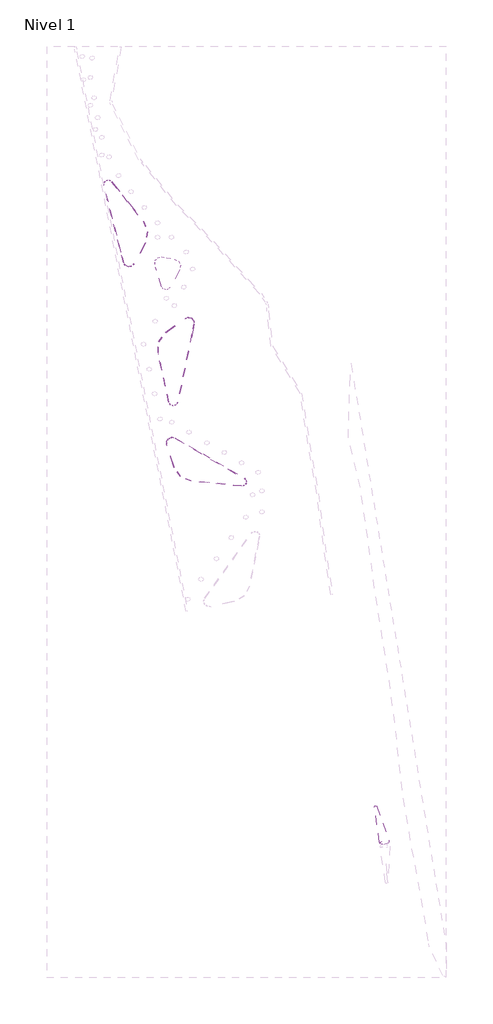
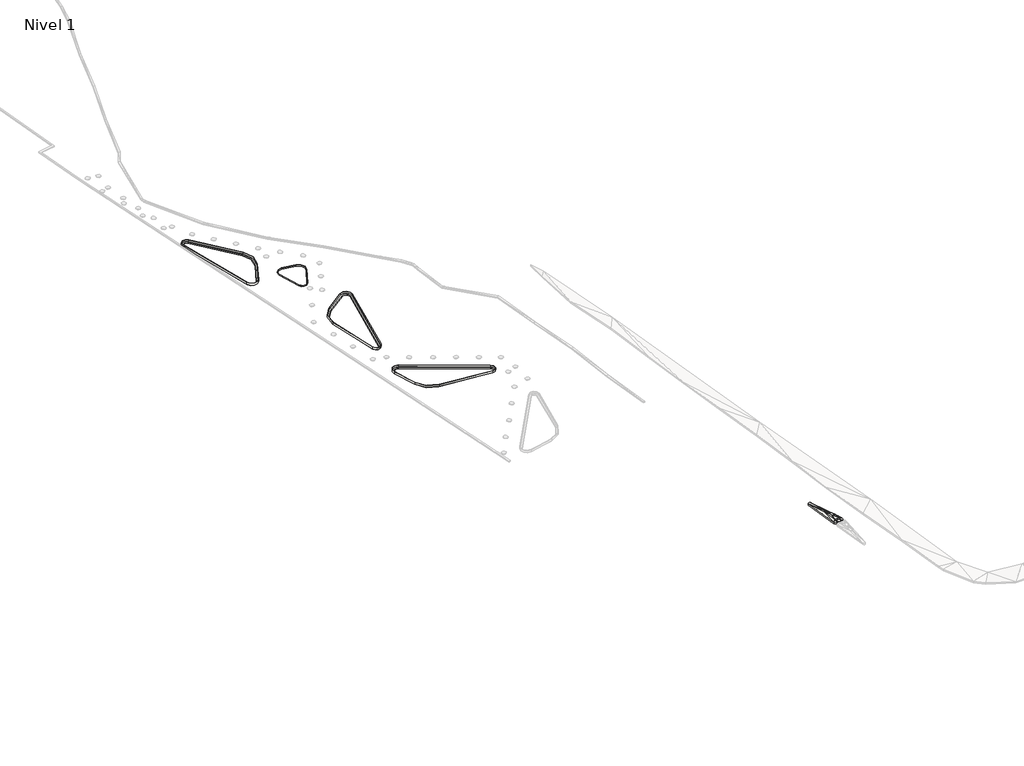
# One storey, part 23 of 45: 8 slabs.
"""IFC4 building model written with IfcOpenShell, lengths in millimetres."""

from ifc_helpers import new_model, si_unit, point, frame, frame_2d, origin, place, context, project, spatial, polyline, circle_curve, trimmed, segment, composite_curve, outline, extrude, element, save
from ifc_brep_helpers import plane_surface, cylinder_surface, revolved_surface, spline_surface, advanced_brep

model = new_model("IFC4")

# Units and contexts
model_context = context("Model", 3, world=origin())
ifc_project = project(units=[si_unit("LENGTHUNIT", "METRE", prefix="MILLI")], contexts=[model_context])

# Site, building, storey
site = spatial("IfcSite", under=ifc_project)
building = spatial("IfcBuilding", under=site)
storey = spatial("IfcBuildingStorey", under=building, Name="Nivel 1", Elevation=0.0)

# Slabs
placement = place(None, origin())
element("IfcSlab", 1, ObjectType="Lippia", at=placement, inside=storey, context=model_context, shape_type="AdvancedBrep", body=[
    advanced_brep(
    [(-297577.5649303, 65862.715958, 4450.0), (-297577.5649303, 65862.715958, 4750.0), (-298484.5435406, 65730.2969978, 4750.0), (-298484.5435406, 65730.2969978, 4450.0), (-297214.1380926, 66550.5736914, 4450.0), (-297214.1380926, 66550.5736914, 4750.0), (-299569.926828, 73163.0431529, 4450.0), (-299569.926828, 73163.0431529, 4750.0), (-299048.0510082, 66151.4063235, 4450.0), (-299048.0510082, 66151.4063235, 4750.0), (-300055.3646897, 73074.0532064, 4750.0), (-300055.3646897, 73074.0532064, 4450.0), (-298016.4116231, 67692.9453435, 5250.0), (-298385.4293453, 68139.7388524, 5250.0), (-298716.3371085, 68177.1692308, 5250.0), (-298798.4685339, 67850.792828, 5250.0), (-298664.4549729, 67611.1512435, 5250.0), (-298521.5610943, 67334.2951677, 5250.0), (-298080.4353767, 67319.4384019, 5250.0), (-297896.7080356, 66475.6975131, 5050.0), (-298342.3265072, 66237.6309907, 5050.0), (-298016.4116231, 67692.9453435, 4950.0), (-298080.4353767, 67319.4384019, 4950.0), (-298521.5610943, 67334.2951677, 4950.0), (-298664.4549729, 67611.1512435, 4950.0), (-298798.4685339, 67850.792828, 4950.0), (-298716.3371085, 68177.1692308, 4950.0), (-298385.4293453, 68139.7388524, 4950.0), (-297896.7080356, 66475.6975131, 4750.0), (-298342.3265072, 66237.6309907, 4750.0), (-298619.8066001, 69391.8526121, 5050.0), (-299098.3182106, 69261.7888346, 5050.0), (-298619.8066001, 69391.8526121, 4750.0), (-299098.3182106, 69261.7888346, 4750.0), (-298707.8018097, 66424.0660744, 5050.0), (-298553.5727109, 66225.5090471, 5050.0), (-298707.8018097, 66424.0660744, 4750.0), (-298553.5727109, 66225.5090471, 4750.0), (-297661.2618629, 66749.044911, 5050.0), (-297661.2618629, 66749.044911, 4750.0), (-297671.0518126, 67109.6802629, 5050.0), (-297671.0518126, 67109.6802629, 4750.0), (-298916.2203696, 69537.1326674, 5050.0), (-298916.2203696, 69537.1326674, 4750.0)],
    [
        (0, 1),
        (1, 2),
        (2, 3),
        (3, 0),
        (4, 5),
        (5, 1, circle_curve(frame((-297673.6199552, 66353.402653, 4750.0), z_axis=(0.0, 0.0, -1.0), x_axis=(0.3988669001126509, 0.9170088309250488, 0.0)), 500.0000005)),
        (0, 4, circle_curve(frame((-297673.6199552, 66353.402653, 4450.0), z_axis=(0.0, 0.0, 1.0), x_axis=(0.3988669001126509, 0.9170088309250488, 0.0)), 500.0000005)),
        (6, 7),
        (7, 5),
        (4, 6),
        (8, 9),
        (9, 10),
        (10, 11),
        (11, 8),
        (2, 9, circle_curve(frame((-298553.5727109, 66225.5090471, 4750.0), z_axis=(0.0, 0.0, -1.0), x_axis=(0.3988669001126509, 0.9170088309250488, 0.0)), 500.0000001)),
        (8, 3, circle_curve(frame((-298553.5727109, 66225.5090471, 4450.0), z_axis=(0.0, 0.0, 1.0), x_axis=(0.3988669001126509, 0.9170088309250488, 0.0)), 500.0000001)),
        (12, 13),
        (13, 14),
        (14, 15),
        (15, 16),
        (16, 17),
        (17, 18),
        (18, 12),
        (5, 19),
        (19, 1),
        (1, 20),
        (20, 2),
        (21, 22),
        (22, 23),
        (23, 24),
        (24, 25),
        (25, 26),
        (26, 27),
        (27, 21),
        (0, 28),
        (28, 4),
        (3, 29),
        (29, 0),
        (13, 30),
        (30, 14),
        (14, 31),
        (31, 15),
        (26, 32),
        (32, 27),
        (25, 33),
        (33, 26),
        (30, 31),
        (12, 30),
        (33, 32),
        (32, 21),
        (34, 9),
        (9, 35),
        (35, 34),
        (16, 34),
        (34, 17),
        (36, 37),
        (37, 8),
        (8, 36),
        (23, 36),
        (36, 24),
        (2, 35),
        (35, 20),
        (20, 19),
        (19, 34),
        (37, 3),
        (36, 28),
        (28, 29),
        (29, 37),
        (19, 17),
        (19, 18),
        (5, 38),
        (38, 19),
        (23, 28),
        (22, 28),
        (28, 39),
        (39, 4),
        (40, 18),
        (18, 38),
        (38, 40),
        (40, 5),
        (5, 30),
        (30, 40),
        (41, 39),
        (39, 22),
        (22, 41),
        (41, 32),
        (32, 4),
        (4, 41),
        (34, 15),
        (31, 34),
        (31, 9),
        (36, 33),
        (25, 36),
        (8, 33),
        (40, 12),
        (21, 41),
        (42, 31),
        (30, 42),
        (43, 32),
        (33, 43),
        (10, 7, circle_curve(frame((-299805.415819, 73079.1090442, 4750.0), z_axis=(0.0, 0.0, -1.0), x_axis=(0.3988669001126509, 0.9170088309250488, 0.0)), 249.999999)),
        (6, 11, circle_curve(frame((-299805.415819, 73079.1090442, 4450.0), z_axis=(0.0, 0.0, 1.0), x_axis=(0.3988669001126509, 0.9170088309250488, 0.0)), 249.999999)),
        (31, 10),
        (42, 10),
        (42, 7),
        (30, 7),
        (11, 33),
        (11, 43),
        (6, 43),
        (6, 32),
    ],
    [
        plane_surface(frame((-297577.5649303, 65862.715958, 4450.0), z_axis=(0.1444684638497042, -0.9895094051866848, 0.0), x_axis=(0.0, 0.0, 1.0))),
        cylinder_surface(frame((-297673.6199552, 66353.402653, 4750.0), z_axis=(0.0, 0.0, -1.0000000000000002), x_axis=(0.3988669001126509, 0.9170088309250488, 0.0)), 500.0000005),
        plane_surface(frame((-299569.926828, 73163.0431529, 4450.0), z_axis=(0.9420036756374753, 0.3356025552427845, 0.0), x_axis=(0.0, 0.0, 1.0))),
        plane_surface(frame((-299048.0510082, 66151.4063235, 4450.0), z_axis=(-0.989578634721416, -0.1439934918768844, 0.0), x_axis=(0.0, 0.0, 1.0))),
        cylinder_surface(frame((-298553.5727109, 66225.5090471, 4750.0), z_axis=(0.0, 0.0, -1.0000000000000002), x_axis=(0.3988669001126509, 0.9170088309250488, 0.0)), 500.0000001),
        plane_surface(frame((-298454.7282935, 67732.218724, 5250.0), z_axis=(0.0, 0.0, 1.0), x_axis=(-0.6368070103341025, 0.7710232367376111, 0.0))),
        spline_surface(2, 1, [[(-297577.5649303, 65862.715958, 4750.0), (-297896.7080356, 66475.6975131, 5050.0)], [(-297343.1276779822, 65908.60853332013, 4750.0), (-297896.7080356, 66475.6975131, 5050.0)], [(-297231.5313060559, 66119.82691205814, 4750.0), (-297896.7080356, 66475.6975131, 5050.0)], [(-297119.9349341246, 66331.04529078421, 4750.0), (-297896.7080356, 66475.6975131, 5050.0)], [(-297214.1380926, 66550.5736914, 4750.0), (-297896.7080356, 66475.6975131, 5050.0)]], [3, 2, 3], [2, 2], [0.0, 1.0, 2.0], [0.0, 1.0], weights=[[1.0, 1.0], [0.9023052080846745, 0.9023052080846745], [1.0, 1.0], [0.9023052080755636, 0.9023052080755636], [1.0, 1.0]]),
        plane_surface(frame((-298134.8116594, 65943.5479821, 4850.0), z_axis=(0.07640028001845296, -0.5232892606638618, 0.8487233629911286), x_axis=(0.9895094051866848, 0.1444684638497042, 0.0))),
        plane_surface(frame((-298454.7282935, 67732.218724, 4950.0), z_axis=(0.0, 0.0, -1.0), x_axis=(-0.6368070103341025, 0.7710232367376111, 0.0))),
        spline_surface(1, 2, [[(-297577.5649303, 65862.715958, 4450.0), (-297343.1276779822, 65908.60853332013, 4450.0), (-297231.5313060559, 66119.82691205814, 4450.0), (-297119.9349341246, 66331.04529078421, 4450.0), (-297214.1380926, 66550.5736914, 4450.0)], [(-297896.7080356, 66475.6975131, 4750.0), (-297896.7080356, 66475.6975131, 4750.0), (-297896.7080356, 66475.6975131, 4750.0), (-297896.7080356, 66475.6975131, 4750.0), (-297896.7080356, 66475.6975131, 4750.0)]], [2, 2], [3, 2, 3], [0.0, 1.0], [0.0, 1.0, 2.0], weights=[[1.0, 0.9023052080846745, 1.0, 0.9023052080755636, 1.0], [1.0, 0.9023052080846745, 1.0, 0.9023052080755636, 1.0]]),
        plane_surface(frame((-298134.8116594, 65943.5479821, 4550.0), z_axis=(-0.07640028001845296, 0.5232892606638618, -0.8487233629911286), x_axis=(0.9895094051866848, 0.1444684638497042, 0.0))),
        plane_surface(frame((-298573.8576846, 68569.5868984, 5183.3333333), z_axis=(0.01821456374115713, 0.1610280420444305, 0.9867817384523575), x_axis=(0.9936633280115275, -0.11239746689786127, 0.0))),
        plane_surface(frame((-298871.0412843, 68429.9169645, 5183.3333333), z_axis=(-0.29127934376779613, 0.073299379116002, 0.9538257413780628), x_axis=(0.2440379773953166, 0.9697656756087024, 0.0))),
        plane_surface(frame((-298573.8576846, 68569.5868984, 4883.3333333), z_axis=(-0.01821456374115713, -0.1610280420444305, -0.9867817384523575), x_axis=(0.9936633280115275, -0.11239746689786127, 0.0))),
        plane_surface(frame((-298871.0412843, 68429.9169645, 4883.3333333), z_axis=(0.29127934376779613, -0.073299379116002, -0.9538257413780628), x_axis=(0.2440379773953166, 0.9697656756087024, 0.0))),
        plane_surface(frame((-298811.4873064, 68943.6035591, 5116.6666667), z_axis=(-0.045061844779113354, 0.16578494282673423, 0.9851318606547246), x_axis=(0.3272683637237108, -0.9292650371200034, 0.1713531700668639))),
        plane_surface(frame((-298340.5491895, 68408.178936, 5183.3333333), z_axis=(0.23787202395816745, 0.19646434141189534, 0.9512195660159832), x_axis=(0.18176309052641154, -0.9710330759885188, 0.15510301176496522))),
        plane_surface(frame((-298811.4873064, 68943.6035591, 4816.6666667), z_axis=(0.045061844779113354, -0.16578494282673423, -0.9851318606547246), x_axis=(0.3272683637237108, -0.9292650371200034, 0.1713531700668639))),
        plane_surface(frame((-298340.5491895, 68408.178936, 4883.3333333), z_axis=(-0.23787202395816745, -0.19646434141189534, -0.9512195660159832), x_axis=(0.18176309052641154, -0.9710330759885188, 0.15510301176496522))),
        plane_surface(frame((-298769.8085096, 66266.993815, 4950.0), z_axis=(-0.44768836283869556, -0.3477417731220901, 0.8238026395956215), x_axis=(-0.6428809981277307, -0.515174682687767, -0.5668324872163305))),
        plane_surface(frame((-298631.2726256, 67123.1708286, 5183.3333333), z_axis=(-0.2883625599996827, -0.14883272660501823, 0.9458836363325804), x_axis=(-0.45864398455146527, 0.888620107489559, 0.0))),
        plane_surface(frame((-298769.8085096, 66266.993815, 4650.0), z_axis=(0.44768836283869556, 0.3477417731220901, -0.8238026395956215), x_axis=(-0.6428809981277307, -0.515174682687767, -0.5668324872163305))),
        plane_surface(frame((-298631.2726256, 67123.1708286, 4883.3333333), z_axis=(0.2883625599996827, 0.14883272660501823, -0.9458836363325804), x_axis=(-0.45864398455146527, 0.888620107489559, 0.0))),
        revolved_surface(polyline([(-298553.5727109, 66225.5090471, 5050.0), (-299048.0510082, 66151.4063235, 4750.0)]), (-298553.5727109, 66225.5090471, 5050.0), (0.0, 0.0, -1.0)),
        plane_surface(frame((-298375.1022658, 66340.7259063, 5050.0), z_axis=(0.0, 0.0, 1.0), x_axis=(0.9983576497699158, 0.057288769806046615, 0.0))),
        plane_surface(frame((-298460.1475862, 66064.4790118, 4950.0), z_axis=(0.029546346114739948, -0.5148970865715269, 0.8567426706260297), x_axis=(0.11838405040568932, -0.8492816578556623, -0.5144957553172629))),
        revolved_surface(polyline([(-298484.5435406, 65730.2969978, 4450.0), (-298553.5727109, 66225.5090471, 4750.0)]), (-298553.5727109, 66225.5090471, 4750.0), (0.0, 0.0, -1.0)),
        plane_surface(frame((-298375.1022658, 66340.7259063, 4750.0), z_axis=(0.0, 0.0, -1.0), x_axis=(0.9983576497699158, 0.057288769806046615, 0.0))),
        plane_surface(frame((-298460.1475862, 66064.4790118, 4650.0), z_axis=(-0.029546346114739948, 0.5148970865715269, -0.8567426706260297), x_axis=(0.11838405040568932, -0.8492816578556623, -0.5144957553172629))),
        plane_surface(frame((-298375.3569799, 66744.6862517, 5116.6666667), z_axis=(0.013831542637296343, -0.21728385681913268, 0.9760104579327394), x_axis=(-0.5782625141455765, 0.7945785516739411, 0.18508751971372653))),
        plane_surface(frame((-298166.2348355, 67043.1436942, 5183.3333333), z_axis=(-0.00782211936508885, -0.2322536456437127, 0.9726238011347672), x_axis=(-0.20728029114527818, 0.9519043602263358, 0.22563902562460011))),
        plane_surface(frame((-297590.7026637, 66591.7720385, 4950.0), z_axis=(0.4087064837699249, -0.35203692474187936, 0.8420386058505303), x_axis=(0.910896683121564, 0.09992303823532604, -0.4003531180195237))),
        plane_surface(frame((-297938.866491, 66192.0148206, 4950.0), z_axis=(0.1876443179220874, -0.3512370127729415, 0.9172906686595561), x_axis=(0.8469055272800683, -0.415185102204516, -0.33222335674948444))),
        plane_surface(frame((-298375.3569799, 66744.6862517, 4816.6666667), z_axis=(-0.013831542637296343, 0.21728385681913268, -0.9760104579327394), x_axis=(-0.5782625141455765, 0.7945785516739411, 0.18508751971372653))),
        plane_surface(frame((-298166.2348355, 67043.1436942, 4883.3333333), z_axis=(0.00782211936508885, 0.2322536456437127, -0.9726238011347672), x_axis=(-0.20728029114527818, 0.9519043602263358, 0.22563902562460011))),
        plane_surface(frame((-297590.7026637, 66591.7720385, 4650.0), z_axis=(-0.4087064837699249, 0.35203692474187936, -0.8420386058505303), x_axis=(0.910896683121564, 0.09992303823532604, -0.4003531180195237))),
        plane_surface(frame((-297938.866491, 66192.0148206, 4650.0), z_axis=(-0.1876443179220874, 0.3512370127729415, -0.9172906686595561), x_axis=(0.8469055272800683, -0.415185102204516, -0.33222335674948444))),
        plane_surface(frame((-297804.2496841, 67059.3878586, 5116.6666667), z_axis=(0.4439026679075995, 0.012050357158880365, 0.895993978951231), x_axis=(-0.8161703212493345, 0.418185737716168, 0.39873135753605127))),
        plane_surface(frame((-297834.9988351, 67684.0355221, 4950.0), z_axis=(0.7596873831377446, 0.3158206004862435, 0.5684473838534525), x_axis=(0.5843620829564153, -0.7150599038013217, -0.38367993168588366))),
        plane_surface(frame((-297804.2496841, 67059.3878586, 4816.6666667), z_axis=(-0.4439026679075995, -0.012050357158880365, -0.895993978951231), x_axis=(-0.8161703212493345, 0.418185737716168, 0.39873135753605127))),
        plane_surface(frame((-297834.9988351, 67684.0355221, 4650.0), z_axis=(-0.7596873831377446, -0.3158206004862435, -0.5684473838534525), x_axis=(0.5843620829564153, -0.7150599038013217, -0.38367993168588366))),
        plane_surface(frame((-297879.468425, 66848.0602753, 5116.6666667), z_axis=(0.21097705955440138, -0.18172384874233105, 0.9604504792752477), x_axis=(-0.5698664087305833, 0.7754499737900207, 0.2719000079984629))),
        plane_surface(frame((-297879.468425, 66848.0602753, 4816.6666667), z_axis=(-0.21097705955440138, 0.18172384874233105, -0.9604504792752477), x_axis=(-0.5698664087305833, 0.7754499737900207, 0.2719000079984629))),
        plane_surface(frame((-298868.1961847, 67845.5492457, 5116.6666667), z_axis=(-0.877695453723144, -0.12078504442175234, 0.4637474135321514), x_axis=(-0.06280917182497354, 0.9883617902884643, 0.13854955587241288))),
        plane_surface(frame((-298723.5751055, 67295.3367153, 5183.3333333), z_axis=(-0.2690366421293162, -0.15045201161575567, 0.951306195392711), x_axis=(0.035984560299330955, 0.9854637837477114, 0.16603084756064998))),
        plane_surface(frame((-298951.3903428, 67279.0870775, 4950.0), z_axis=(-0.6196234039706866, -0.08527016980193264, 0.7802536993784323), x_axis=(0.01608436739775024, -0.9952520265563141, -0.09599321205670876))),
        plane_surface(frame((-298868.1961847, 67845.5492457, 4816.6666667), z_axis=(0.877695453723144, 0.12078504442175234, -0.4637474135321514), x_axis=(-0.06280917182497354, 0.9883617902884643, 0.13854955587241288))),
        plane_surface(frame((-298723.5751055, 67295.3367153, 4883.3333333), z_axis=(0.2690366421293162, 0.15045201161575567, -0.951306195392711), x_axis=(0.035984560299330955, 0.9854637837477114, 0.16603084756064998))),
        plane_surface(frame((-298951.3903428, 67279.0870775, 4650.0), z_axis=(0.6196234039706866, 0.08527016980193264, -0.7802536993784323), x_axis=(0.01608436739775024, -0.9952520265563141, -0.09599321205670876))),
        plane_surface(frame((-297922.6329374, 67374.0213361, 5183.3333333), z_axis=(0.40867261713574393, -0.07005158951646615, 0.9099887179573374), x_axis=(-0.16894841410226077, -0.9856248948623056, 0.0))),
        plane_surface(frame((-298102.4233453, 68064.8260728, 5116.6666667), z_axis=(0.8340733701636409, 0.34674467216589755, 0.429056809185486), x_axis=(0.33264364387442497, -0.936585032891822, 0.11025734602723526))),
        plane_surface(frame((-297922.6329374, 67374.0213361, 4883.3333333), z_axis=(-0.40867261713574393, 0.07005158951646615, -0.9099887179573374), x_axis=(-0.16894841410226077, -0.9856248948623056, 0.0))),
        plane_surface(frame((-298102.4233453, 68064.8260728, 4816.6666667), z_axis=(-0.8340733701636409, -0.34674467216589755, -0.429056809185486), x_axis=(0.33264364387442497, -0.936585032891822, 0.11025734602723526))),
        plane_surface(frame((-298878.1150601, 69396.9247047, 5050.0), z_axis=(0.0, 0.0, 1.0), x_axis=(-0.5516246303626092, -0.8340924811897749, 0.0))),
        plane_surface(frame((-297515.4839227, 66803.0996218, 4950.0), z_axis=(0.5617573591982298, 0.015249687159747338, 0.8271614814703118), x_axis=(0.7791569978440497, -0.3458555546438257, -0.522779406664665))),
        plane_surface(frame((-298878.1150601, 69396.9247047, 4750.0), z_axis=(0.0, 0.0, -1.0), x_axis=(-0.5516246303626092, -0.8340924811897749, 0.0))),
        plane_surface(frame((-297515.4839227, 66803.0996218, 4650.0), z_axis=(-0.5617573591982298, -0.015249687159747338, -0.8271614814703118), x_axis=(0.7791569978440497, -0.3458555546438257, -0.522779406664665))),
        cylinder_surface(frame((-299805.415819, 73079.1090442, 4750.0), z_axis=(0.0, 0.0, -1.0000000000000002), x_axis=(0.3988669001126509, 0.9170088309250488, 0.0)), 249.999999),
        plane_surface(frame((-299400.5779695, 69495.7494548, 4850.0), z_axis=(-0.5955260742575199, -0.08665494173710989, 0.7986486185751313), x_axis=(0.1439934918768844, -0.989578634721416, 0.0))),
        plane_surface(frame((-299356.6344233, 70624.3249028, 4950.0), z_axis=(-0.08579216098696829, 0.05673839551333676, 0.9946961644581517), x_axis=(0.24278247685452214, -0.9670909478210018, 0.07610366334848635))),
        spline_surface(2, 1, [[(-299569.926828, 73163.0431529, 4750.0), (-298916.2203696, 69537.1326674, 5050.0)], [(-299641.3233970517, 73363.35630648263, 4750.0), (-298916.2203696, 69537.1326674, 5050.0)], [(-299850.49435796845, 73325.01131098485, 4750.0), (-298916.2203696, 69537.1326674, 5050.0)], [(-300059.6653188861, 73286.66631553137, 4750.0), (-298916.2203696, 69537.1326674, 5050.0)], [(-300055.3646897, 73074.0532064, 4750.0), (-298916.2203696, 69537.1326674, 5050.0)]], [3, 2, 3], [2, 2], [0.0, 1.0, 2.0], [0.0, 1.0], weights=[[1.0, 1.0], [0.7617038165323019, 0.7617038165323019], [1.0, 1.0], [0.7617038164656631, 0.7617038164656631], [1.0, 1.0]]),
        plane_surface(frame((-299035.3179326, 70697.3428108, 4950.0), z_axis=(0.04425711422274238, 0.0902974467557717, 0.9949309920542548), x_axis=(0.89794563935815, -0.4401063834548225, 0.0))),
        plane_surface(frame((-298467.9571735, 69701.8231521, 4850.0), z_axis=(0.592691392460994, 0.21115495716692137, 0.7772583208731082), x_axis=(0.4414589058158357, -0.8923212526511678, -0.09421685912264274))),
        plane_surface(frame((-299400.5779695, 69495.7494548, 4550.0), z_axis=(0.5955260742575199, 0.08665494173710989, -0.7986486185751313), x_axis=(0.1439934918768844, -0.989578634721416, 0.0))),
        plane_surface(frame((-299356.6344233, 70624.3249028, 4650.0), z_axis=(0.08579216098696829, -0.05673839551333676, -0.9946961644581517), x_axis=(0.24278247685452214, -0.9670909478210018, 0.07610366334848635))),
        spline_surface(1, 2, [[(-299569.926828, 73163.0431529, 4450.0), (-299641.3233970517, 73363.35630648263, 4450.0), (-299850.49435796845, 73325.01131098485, 4450.0), (-300059.6653188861, 73286.66631553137, 4450.0), (-300055.3646897, 73074.0532064, 4450.0)], [(-298916.2203696, 69537.1326674, 4750.0), (-298916.2203696, 69537.1326674, 4750.0), (-298916.2203696, 69537.1326674, 4750.0), (-298916.2203696, 69537.1326674, 4750.0), (-298916.2203696, 69537.1326674, 4750.0)]], [2, 2], [3, 2, 3], [0.0, 1.0], [0.0, 1.0, 2.0], weights=[[1.0, 0.7617038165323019, 1.0, 0.7617038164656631, 1.0], [1.0, 0.7617038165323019, 1.0, 0.7617038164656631, 1.0]]),
        plane_surface(frame((-299035.3179326, 70697.3428108, 4650.0), z_axis=(-0.04425711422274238, -0.0902974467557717, -0.9949309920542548), x_axis=(0.89794563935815, -0.4401063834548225, 0.0))),
        plane_surface(frame((-298467.9571735, 69701.8231521, 4550.0), z_axis=(-0.592691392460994, -0.21115495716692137, -0.7772583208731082), x_axis=(0.4414589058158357, -0.8923212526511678, -0.09421685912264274))),
    ],
    [
        (0, [[1, 2, 3, 4]]),
        (1, [[5, 6, -1, 7]]),
        (2, [[8, 9, -5, 10]]),
        (3, [[11, 12, 13, 14]]),
        (4, [[-3, 15, -11, 16]]),
        (5, [[17, 18, 19, 20, 21, 22, 23]]),
        (6, [[-6, 24, 25]]),
        (7, [[-2, 26, 27]]),
        (8, [[28, 29, 30, 31, 32, 33, 34]]),
        (9, [[35, 36, -7]]),
        (10, [[37, 38, -4]]),
        (11, [[-18, 39, 40]]),
        (12, [[-19, 41, 42]]),
        (13, [[43, 44, -33]]),
        (14, [[45, 46, -32]]),
        (15, [[-41, -40, 47]]),
        (16, [[-39, -17, 48]]),
        (17, [[49, -43, -46]]),
        (18, [[50, -34, -44]]),
        (19, [[51, 52, 53]]),
        (20, [[-21, 54, 55]]),
        (21, [[56, 57, 58]]),
        (22, [[59, 60, -30]]),
        (23, [[-52, -15, 61]]),
        (24, [[62, 63, 64, -53]]),
        (25, [[-61, -27, -62]]),
        (26, [[65, -16, -57]]),
        (27, [[-56, 66, 67, 68]]),
        (28, [[-68, -37, -65]]),
        (29, [[69, -55, -64]]),
        (30, [[70, -22, -69]]),
        (31, [[-24, 71, 72]]),
        (32, [[-26, -25, -63]]),
        (33, [[-66, -59, 73]]),
        (34, [[-73, -29, 74]]),
        (35, [[75, 76, -36]]),
        (36, [[-67, -35, -38]]),
        (37, [[77, 78, 79]]),
        (38, [[80, 81, 82]]),
        (39, [[83, 84, 85]]),
        (40, [[86, 87, 88]]),
        (41, [[-78, -70, -72]]),
        (42, [[-75, -74, -84]]),
        (43, [[89, -42, 90]]),
        (44, [[-54, -20, -89]]),
        (45, [[91, -51, -90]]),
        (46, [[92, -45, 93]]),
        (47, [[-93, -31, -60]]),
        (48, [[-92, -58, 94]]),
        (49, [[-23, -77, 95]]),
        (50, [[-48, -95, -82]]),
        (51, [[96, -85, -28]]),
        (52, [[-86, -96, -50]]),
        (53, [[97, -47, 98]]),
        (54, [[-71, -80, -79]]),
        (55, [[99, -49, 100]]),
        (56, [[-83, -88, -76]]),
        (57, [[-13, 101, -8, 102]]),
        (58, [[-12, -91, 103]]),
        (59, [[-103, -97, 104]]),
        (60, [[-104, 105, -101]]),
        (61, [[-98, 106, -105]]),
        (62, [[-81, -9, -106]]),
        (63, [[107, -94, -14]]),
        (64, [[108, -100, -107]]),
        (65, [[-102, 109, -108]]),
        (66, [[-109, 110, -99]]),
        (67, [[-110, -10, -87]]),
    ],
),
])
element("IfcSlab", 2, ObjectType="Bordillo", at=placement, inside=storey, context=model_context, shape_type="SweptSolid", body=[
    extrude(outline(composite_curve([segment(trimmed(circle_curve(frame_2d((-326095.9770488, 136918.7786492)), 900.0000004), [point((-325643.1667101, 137696.5721937))], [point((-326189.7255377, 136023.6746209))], False, "CARTESIAN"), True, "CONTINUOUS"), segment(polyline([(-326189.7255377, 136023.6746209), (-336144.6046334, 137066.2963079)]), True, "CONTINUOUS"), segment(trimmed(circle_curve(frame_2d((-335738.3611815, 140945.0804317)), 3900.0000027), [point((-336144.6046334, 137066.2963079))], [point((-339451.5413192, 139752.4810495))], False, "CARTESIAN"), True, "CONTINUOUS"), segment(polyline([(-339451.5413192, 139752.4810495), (-340898.6663812, 144258.1315782)]), True, "CONTINUOUS"), segment(trimmed(circle_curve(frame_2d((-339803.7542902, 144609.7954984)), 1150.0), [point((-340898.6663812, 144258.1315782))], [point((-339225.1633025, 145603.6428051))], False, "CARTESIAN"), True, "CONTINUOUS"), segment(polyline([(-339225.1633025, 145603.6428051), (-325643.1667101, 137696.5721937)]), True, "CONTINUOUS")], self_intersect=False), holes=[composite_curve([segment(trimmed(circle_curve(frame_2d((-339803.7542911, 144609.7955001)), 1049.9999999), [point((-339275.4450707, 145517.2035491))], [point((-340803.456635, 144288.7110513))], True, "CARTESIAN"), True, "CONTINUOUS"), segment(polyline([(-340803.456635, 144288.7110513), (-339356.3315716, 139783.0605193)]), True, "CONTINUOUS"), segment(trimmed(circle_curve(frame_2d((-335738.3611829, 140945.0804299)), 3800.000001), [point((-339356.3315716, 139783.0605193))], [point((-336134.1881358, 137165.7523108))], True, "CARTESIAN"), True, "CONTINUOUS"), segment(polyline([(-336134.1881358, 137165.7523108), (-326179.2836578, 136123.1279656)]), True, "CONTINUOUS"), segment(trimmed(circle_curve(frame_2d((-326095.9770493, 136918.7786491)), 800.0000008), [point((-326179.2836578, 136123.1279656))], [point((-325693.4789702, 137610.1506891))], True, "CARTESIAN"), True, "CONTINUOUS"), segment(polyline([(-325693.4789702, 137610.1506891), (-339275.4450707, 145517.2035491)]), True, "CONTINUOUS")], self_intersect=False)]), frame((0.0, 0.0, 3100.0), z_axis=(0.0, 0.0, 1.0), x_axis=(1.0, 0.0, 0.0)), (0.0, 0.0, 1.0), 400.0),
])
element("IfcSlab", 3, ObjectType="Bordillo", at=placement, inside=storey, context=model_context, shape_type="SweptSolid", body=[
    extrude(outline(composite_curve([segment(trimmed(circle_curve(frame_2d((-339593.7263925, 152724.8612014)), 900.0), [point((-338712.8802428, 152540.17211))], [point((-340472.7788187, 152531.8150096))], False, "CARTESIAN"), True, "CONTINUOUS"), segment(polyline([(-340472.7788187, 152531.8150096), (-342619.7376518, 162308.1765789)]), True, "CONTINUOUS"), segment(trimmed(circle_curve(frame_2d((-338810.510469, 163144.7100777)), 3900.0000032), [point((-342619.7376518, 162308.1765789))], [point((-341112.2787642, 166293.0211711))], False, "CARTESIAN"), True, "CONTINUOUS"), segment(polyline([(-341112.2787642, 166293.0211711), (-337292.0521615, 169086.0350156)]), True, "CONTINUOUS"), segment(trimmed(circle_curve(frame_2d((-336613.3256135, 168157.6868729)), 1150.0000005), [point((-337292.0521615, 169086.0350156))], [point((-335487.7926874, 167921.7300265))], False, "CARTESIAN"), True, "CONTINUOUS"), segment(polyline([(-335487.7926874, 167921.7300265), (-338712.8802428, 152540.17211)]), True, "CONTINUOUS")], self_intersect=False), holes=[composite_curve([segment(polyline([(-337233.0324636, 169005.3090912), (-341053.2590664, 166212.2952431)]), True, "CONTINUOUS"), segment(trimmed(circle_curve(frame_2d((-338810.5104709, 163144.7100775)), 3800.0000016), [point((-341053.2590664, 166212.2952431))], [point((-342522.0651604, 162329.6261561))], True, "CARTESIAN"), True, "CONTINUOUS"), segment(polyline([(-342522.0651604, 162329.6261561), (-340375.1063269, 152553.2645846)]), True, "CONTINUOUS"), segment(trimmed(circle_curve(frame_2d((-339593.7263924, 152724.8611996)), 800.0000002), [point((-340375.1063269, 152553.2645846))], [point((-338810.7520369, 152560.6931183))], True, "CARTESIAN"), True, "CONTINUOUS"), segment(polyline([(-338810.7520369, 152560.6931183), (-335585.6596624, 167942.274021)]), True, "CONTINUOUS"), segment(trimmed(circle_curve(frame_2d((-336613.3256138, 168157.6868729)), 1050.0000021), [point((-335585.6596624, 167942.274021))], [point((-337233.0324636, 169005.3090912))], True, "CARTESIAN"), True, "CONTINUOUS")], self_intersect=False)]), frame((0.0, 0.0, 3100.0), z_axis=(0.0, 0.0, 1.0), x_axis=(1.0, 0.0, 0.0)), (0.0, 0.0, 1.0), 400.0),
])
element("IfcSlab", 4, ObjectType="Tierra de Chacra (20cm)", at=placement, inside=storey, context=model_context, shape_type="AdvancedBrep", body=[
    advanced_brep(
    [(-325693.4750067, 137610.1628173, 3000.0), (-326179.3050758, 136123.1427537, 3000.0), (-336134.1841714, 137165.7644424, 3000.0), (-339356.3276075, 139783.0726526, 3000.0), (-340803.4209348, 144288.6243809, 3000.0), (-339275.4715996, 145517.2334292, 3000.0), (-339426.4083783, 145257.968914, 3000.0), (-340517.7966071, 144380.3780931, 3000.0), (-339070.6983663, 139874.8110664, 3000.0), (-336102.934675, 137464.1324517, 3000.0), (-326148.0555795, 136421.510763, 3000.0), (-325844.4117863, 137350.8983027, 3000.0), (-325693.4750067, 137610.1628173, 3200.0), (-339275.4715996, 145517.2334292, 3200.0), (-340803.4209347, 144288.6243807, 3200.0), (-339356.3276075, 139783.0726526, 3200.0), (-336134.1841714, 137165.7644424, 3200.0), (-326179.3050758, 136123.1427537, 3200.0), (-339426.4083757, 145257.9689191, 3200.0), (-325844.4117863, 137350.8983027, 3200.0), (-326148.0555795, 136421.510763, 3200.0), (-336102.934675, 137464.1324517, 3200.0), (-339070.6983663, 139874.8110664, 3200.0), (-340517.7966071, 144380.3780931, 3200.0)],
    [
        (0, 1, circle_curve(frame((-326095.9730856, 136918.7907783, 3000.0), z_axis=(0.0, 0.0, -1.0), x_axis=(0.09296127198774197, -0.9956697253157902, 0.0)), 799.9999998)),
        (1, 2),
        (2, 3, circle_curve(frame((-335738.3572178, 140945.0925616, 3000.0), z_axis=(0.0, 0.0, -1.0), x_axis=(0.09296127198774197, -0.9956697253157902, 0.0)), 3800.0000013)),
        (3, 4),
        (4, 5, circle_curve(frame((-339803.7503257, 144609.8076248, 3000.0), z_axis=(0.0, 0.0, -1.0), x_axis=(0.09296127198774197, -0.9956697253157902, 0.0)), 1050.0000013)),
        (5, 0),
        (6, 7, circle_curve(frame((-339803.7503257, 144609.8076248, 3000.0), z_axis=(0.0, 0.0, 1.0), x_axis=(0.09296127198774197, -0.9956697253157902, 0.0)), 750.0000013)),
        (7, 8),
        (8, 9, circle_curve(frame((-335738.3572178, 140945.0925616, 3000.0), z_axis=(0.0, 0.0, 1.0), x_axis=(0.09296127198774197, -0.9956697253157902, 0.0)), 3500.0000013)),
        (9, 10),
        (10, 11, circle_curve(frame((-326095.9730856, 136918.7907783, 3000.0), z_axis=(0.0, 0.0, 1.0), x_axis=(0.09296127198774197, -0.9956697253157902, 0.0)), 499.9999998)),
        (11, 6),
        (12, 13),
        (13, 14, circle_curve(frame((-339803.7503257, 144609.8076248, 3200.0), z_axis=(0.0, 0.0, 1.0), x_axis=(0.09296127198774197, -0.9956697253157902, 0.0)), 1050.0000013)),
        (14, 15),
        (15, 16, circle_curve(frame((-335738.3572178, 140945.0925616, 3200.0), z_axis=(0.0, 0.0, 1.0), x_axis=(0.09296127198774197, -0.9956697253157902, 0.0)), 3800.0000013)),
        (16, 17),
        (17, 12, circle_curve(frame((-326095.9730856, 136918.7907783, 3200.0), z_axis=(0.0, 0.0, 1.0), x_axis=(0.09296127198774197, -0.9956697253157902, 0.0)), 799.9999998)),
        (18, 19),
        (19, 20, circle_curve(frame((-326095.9730856, 136918.7907783, 3200.0), z_axis=(0.0, 0.0, -1.0), x_axis=(0.09296127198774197, -0.9956697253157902, 0.0)), 499.9999998)),
        (20, 21),
        (21, 22, circle_curve(frame((-335738.3572178, 140945.0925616, 3200.0), z_axis=(0.0, 0.0, -1.0), x_axis=(0.09296127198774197, -0.9956697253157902, 0.0)), 3500.0000013)),
        (22, 23),
        (23, 18, circle_curve(frame((-339803.7503257, 144609.8076248, 3200.0), z_axis=(0.0, 0.0, -1.0), x_axis=(0.09296127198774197, -0.9956697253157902, 0.0)), 750.0000013)),
        (6, 18),
        (23, 7),
        (22, 8),
        (21, 9),
        (20, 10),
        (19, 11),
        (0, 12),
        (17, 1),
        (16, 2),
        (15, 3),
        (14, 4),
        (13, 5),
    ],
    [
        plane_surface(frame((-339734.0293716, 143863.0553295, 3000.0), z_axis=(0.0, 0.0, -1.0), x_axis=(0.9956697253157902, 0.09296127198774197, 0.0))),
        plane_surface(frame((-339734.0293716, 143863.0553295, 3200.0), z_axis=(0.0, 0.0, 1.0), x_axis=(-0.9956697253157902, -0.09296127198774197, 0.0))),
        revolved_surface(polyline([(-339734.0293715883, 143863.0553295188, 3200.0), (-339734.0293715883, 143863.0553295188, 3000.0)]), (-339803.7503257, 144609.8076248, 3200.0), (0.0, 0.0, 1.0)),
        plane_surface(frame((-340517.7966071, 144380.3780931, 3000.0), z_axis=(0.9520974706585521, 0.3057947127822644, 0.0), x_axis=(0.0, 0.0, 1.0))),
        revolved_surface(polyline([(-335412.99276572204, 137460.24852170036, 3200.0), (-335412.99276572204, 137460.24852170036, 3000.0)]), (-335738.3572178, 140945.0925616, 3200.0), (0.0, 0.0, 1.0)),
        plane_surface(frame((-336102.934675, 137464.1324517, 3000.0), z_axis=(0.10416498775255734, 0.9945600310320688, 0.0), x_axis=(0.0, 0.0, 1.0))),
        revolved_surface(polyline([(-326049.49244962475, 136420.95591584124, 3200.0), (-326049.49244962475, 136420.95591584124, 3000.0)]), (-326095.9730856, 136918.7907783, 3200.0), (0.0, 0.0, 1.0)),
        plane_surface(frame((-325844.4117863, 137350.8983027, 3000.0), z_axis=(-0.5031225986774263, -0.8642150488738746, 0.0), x_axis=(0.0, 0.0, 1.0))),
        cylinder_surface(frame((-326095.9730856, 136918.7907783, 0.0), z_axis=(0.0, 0.0, -1.0), x_axis=(0.09296127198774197, -0.9956697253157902, 0.0)), 799.9999998),
        plane_surface(frame((-326179.3050758, 136123.1427537, 3000.0), z_axis=(-0.10416498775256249, -0.9945600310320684, 0.0), x_axis=(0.0, 0.0, 1.0))),
        cylinder_surface(frame((-335738.3572178, 140945.0925616, 0.0), z_axis=(0.0, 0.0, -1.0), x_axis=(0.09296127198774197, -0.9956697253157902, 0.0)), 3800.0000013),
        plane_surface(frame((-339356.3276075, 139783.0726526, 3000.0), z_axis=(-0.9520974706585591, -0.3057947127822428, 0.0), x_axis=(0.0, 0.0, 1.0))),
        cylinder_surface(frame((-339803.7503257, 144609.8076248, 0.0), z_axis=(0.0, 0.0, -1.0), x_axis=(0.09296127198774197, -0.9956697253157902, 0.0)), 1050.0000013),
        plane_surface(frame((-339275.4715996, 145517.2334292, 3000.0), z_axis=(0.5031225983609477, 0.86421504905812, 0.0), x_axis=(0.0, 0.0, 1.0))),
    ],
    [
        (0, [[1, 2, 3, 4, 5, 6], [7, 8, 9, 10, 11, 12]]),
        (1, [[13, 14, 15, 16, 17, 18], [19, 20, 21, 22, 23, 24]]),
        (2, [[-7, 25, -24, 26]]),
        (3, [[-8, -26, -23, 27]]),
        (4, [[-9, -27, -22, 28]]),
        (5, [[-10, -28, -21, 29]]),
        (6, [[-11, -29, -20, 30]]),
        (7, [[-12, -30, -19, -25]]),
        (8, [[-1, 31, -18, 32]]),
        (9, [[-2, -32, -17, 33]]),
        (10, [[-3, -33, -16, 34]]),
        (11, [[-4, -34, -15, 35]]),
        (12, [[-5, -35, -14, 36]]),
        (13, [[-6, -36, -13, -31]]),
    ],
),
])
element("IfcSlab", 5, ObjectType="Tierra de Chacra (20cm)", at=placement, inside=storey, context=model_context, shape_type="AdvancedBrep", body=[
    advanced_brep(
    [(-338810.7332185, 152560.6809845, 3000.0), (-340375.0875078, 152553.2524501, 3000.0), (-342522.0463453, 162329.61402, 3000.0), (-341053.2402518, 166212.2831083, 3000.0), (-337233.0974217, 169005.2357092, 3000.0), (-335585.6529646, 167942.2041362, 3000.0), (-335879.2683481, 168003.7671655, 3000.0), (-337056.0253516, 168763.067416, 3000.0), (-340876.1811522, 165970.1053322, 3000.0), (-342229.0288699, 162393.9627507, 3000.0), (-340082.0700325, 152617.6011809, 3000.0), (-339104.3486018, 152622.2440148, 3000.0), (-338810.7332185, 152560.6809845, 3200.0), (-335585.6529646, 167942.2041362, 3200.0), (-337233.0974217, 169005.2357092, 3200.0), (-341053.2402518, 166212.2831083, 3200.0), (-342522.0463453, 162329.61402, 3200.0), (-340375.0875078, 152553.2524501, 3200.0), (-335879.2683424, 168003.7671647, 3200.0), (-339104.3486018, 152622.2440148, 3200.0), (-340082.0700325, 152617.6011809, 3200.0), (-342229.0288699, 162393.9627507, 3200.0), (-340876.1811522, 165970.1053322, 3200.0), (-337056.0253516, 168763.067416, 3200.0)],
    [
        (0, 1, circle_curve(frame((-339593.7075737, 152724.8490654, 3000.0), z_axis=(0.0, 0.0, -1.0), x_axis=(-0.9156696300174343, -0.40193174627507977, 0.0)), 799.9999998)),
        (1, 2),
        (2, 3, circle_curve(frame((-338810.4916564, 163144.6979428, 3000.0), z_axis=(0.0, 0.0, -1.0), x_axis=(-0.9156696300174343, -0.40193174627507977, 0.0)), 3800.0000013)),
        (3, 4),
        (4, 5, circle_curve(frame((-336613.3068081, 168157.674739, 3000.0), z_axis=(0.0, 0.0, -1.0), x_axis=(-0.9156696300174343, -0.40193174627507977, 0.0)), 1050.0000013)),
        (5, 0),
        (6, 7, circle_curve(frame((-336613.3068081, 168157.674739, 3000.0), z_axis=(0.0, 0.0, 1.0), x_axis=(-0.9156696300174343, -0.40193174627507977, 0.0)), 750.0000013)),
        (7, 8),
        (8, 9, circle_curve(frame((-338810.4916564, 163144.6979428, 3000.0), z_axis=(0.0, 0.0, 1.0), x_axis=(-0.9156696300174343, -0.40193174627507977, 0.0)), 3500.0000013)),
        (9, 10),
        (10, 11, circle_curve(frame((-339593.7075737, 152724.8490654, 3000.0), z_axis=(0.0, 0.0, 1.0), x_axis=(-0.9156696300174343, -0.40193174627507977, 0.0)), 499.9999998)),
        (11, 6),
        (12, 13),
        (13, 14, circle_curve(frame((-336613.3068081, 168157.674739, 3200.0), z_axis=(0.0, 0.0, 1.0), x_axis=(-0.9156696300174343, -0.40193174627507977, 0.0)), 1050.0000013)),
        (14, 15),
        (15, 16, circle_curve(frame((-338810.4916564, 163144.6979428, 3200.0), z_axis=(0.0, 0.0, 1.0), x_axis=(-0.9156696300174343, -0.40193174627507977, 0.0)), 3800.0000013)),
        (16, 17),
        (17, 12, circle_curve(frame((-339593.7075737, 152724.8490654, 3200.0), z_axis=(0.0, 0.0, 1.0), x_axis=(-0.9156696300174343, -0.40193174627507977, 0.0)), 799.9999998)),
        (18, 19),
        (19, 20, circle_curve(frame((-339593.7075737, 152724.8490654, 3200.0), z_axis=(0.0, 0.0, -1.0), x_axis=(-0.9156696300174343, -0.40193174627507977, 0.0)), 499.9999998)),
        (20, 21),
        (21, 22, circle_curve(frame((-338810.4916564, 163144.6979428, 3200.0), z_axis=(0.0, 0.0, -1.0), x_axis=(-0.9156696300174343, -0.40193174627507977, 0.0)), 3500.0000013)),
        (22, 23),
        (23, 18, circle_curve(frame((-336613.3068081, 168157.674739, 3200.0), z_axis=(0.0, 0.0, -1.0), x_axis=(-0.9156696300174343, -0.40193174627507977, 0.0)), 750.0000013)),
        (6, 18),
        (23, 7),
        (22, 8),
        (21, 9),
        (20, 10),
        (19, 11),
        (0, 12),
        (17, 1),
        (16, 2),
        (15, 3),
        (14, 4),
        (13, 5),
    ],
    [
        plane_surface(frame((-337300.0590319, 167856.2259288, 3000.0), z_axis=(0.0, 0.0, -1.0), x_axis=(0.40193174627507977, -0.9156696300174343, 0.0))),
        plane_surface(frame((-337300.0590319, 167856.2259288, 3200.0), z_axis=(0.0, 0.0, 1.0), x_axis=(-0.40193174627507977, 0.9156696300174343, 0.0))),
        revolved_surface(polyline([(-337300.05903180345, 167856.2259287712, 3200.0), (-337300.05903180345, 167856.2259287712, 3000.0)]), (-336613.3068081, 168157.674739, 3200.0), (0.0, 0.0, 1.0)),
        plane_surface(frame((-337056.0253516, 168763.067416, 3000.0), z_axis=(0.590196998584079, -0.807259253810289, 0.0), x_axis=(0.0, 0.0, 1.0))),
        revolved_surface(polyline([(-342015.3353626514, 161737.93683031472, 3200.0), (-342015.3353626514, 161737.93683031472, 3000.0)]), (-338810.4916564, 163144.6979428, 3200.0), (0.0, 0.0, 1.0)),
        plane_surface(frame((-342229.0288699, 162393.9627507, 3000.0), z_axis=(0.9767249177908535, 0.21449576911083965, 0.0), x_axis=(0.0, 0.0, 1.0))),
        revolved_surface(polyline([(-340051.54238852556, 152523.88319234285, 3200.0), (-340051.54238852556, 152523.88319234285, 3000.0)]), (-339593.7075737, 152724.8490654, 3200.0), (0.0, 0.0, 1.0)),
        plane_surface(frame((-339104.3486018, 152622.2440148, 3000.0), z_axis=(-0.978717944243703, 0.2052101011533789, 0.0), x_axis=(0.0, 0.0, 1.0))),
        cylinder_surface(frame((-339593.7075737, 152724.8490654, 0.0), z_axis=(0.0, 0.0, -1.0), x_axis=(-0.9156696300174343, -0.40193174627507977, 0.0)), 799.9999998),
        plane_surface(frame((-340375.0875078, 152553.2524501, 3000.0), z_axis=(-0.9767249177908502, -0.2144957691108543, 0.0), x_axis=(0.0, 0.0, 1.0))),
        cylinder_surface(frame((-338810.4916564, 163144.6979428, 0.0), z_axis=(0.0, 0.0, -1.0), x_axis=(-0.9156696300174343, -0.40193174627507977, 0.0)), 3800.0000013),
        plane_surface(frame((-341053.2402518, 166212.2831083, 3000.0), z_axis=(-0.5901969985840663, 0.8072592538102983, 0.0), x_axis=(0.0, 0.0, 1.0))),
        cylinder_surface(frame((-336613.3068081, 168157.674739, 0.0), z_axis=(0.0, 0.0, -1.0), x_axis=(-0.9156696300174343, -0.40193174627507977, 0.0)), 1050.0000013),
        plane_surface(frame((-335585.6529646, 167942.2041362, 3000.0), z_axis=(0.9787179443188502, -0.2052101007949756, 0.0), x_axis=(0.0, 0.0, 1.0))),
    ],
    [
        (0, [[1, 2, 3, 4, 5, 6], [7, 8, 9, 10, 11, 12]]),
        (1, [[13, 14, 15, 16, 17, 18], [19, 20, 21, 22, 23, 24]]),
        (2, [[-7, 25, -24, 26]]),
        (3, [[-8, -26, -23, 27]]),
        (4, [[-9, -27, -22, 28]]),
        (5, [[-10, -28, -21, 29]]),
        (6, [[-11, -29, -20, 30]]),
        (7, [[-12, -30, -19, -25]]),
        (8, [[-1, 31, -18, 32]]),
        (9, [[-2, -32, -17, 33]]),
        (10, [[-3, -33, -16, 34]]),
        (11, [[-4, -34, -15, 35]]),
        (12, [[-5, -35, -14, 36]]),
        (13, [[-6, -36, -13, -31]]),
    ],
),
])
element("IfcSlab", 6, ObjectType="Tierra de Chacra (20cm)", at=placement, inside=storey, context=model_context, shape_type="AdvancedBrep", body=[
    advanced_brep(
    [(-353170.5926326, 195204.8047831, 3000.0), (-351769.1718144, 195899.9876483, 3000.0), (-345538.5118985, 188066.3706799, 3000.0), (-345148.5436015, 183933.5223501, 3000.0), (-347349.537844, 179744.2861649, 3000.0), (-349296.7053261, 179973.7380363, 3000.0), (-349005.9619808, 180047.6860393, 3000.0), (-347615.1217492, 179883.8038681, 3000.0), (-345414.1200336, 184073.0542772, 3000.0), (-345773.3013599, 187879.6251074, 3000.0), (-352003.9612757, 195713.2420758, 3000.0), (-352879.849287, 195278.7527851, 3000.0), (-353170.5926326, 195204.8047831, 3200.0), (-349296.7053261, 179973.7380363, 3200.0), (-347349.5378439, 179744.286165, 3200.0), (-345148.5436015, 183933.5223501, 3200.0), (-345538.5118985, 188066.3706799, 3200.0), (-351769.1718144, 195899.9876483, 3200.0), (-349005.9619863, 180047.6860375, 3200.0), (-352879.849287, 195278.7527851, 3200.0), (-352003.9612757, 195713.2420758, 3200.0), (-345773.3013599, 187879.6251074, 3200.0), (-345414.1200336, 184073.0542772, 3200.0), (-347615.1217492, 179883.8038681, 3200.0)],
    [
        (0, 1, circle_curve(frame((-352395.2770445, 195401.9994551, 3000.0), z_axis=(0.0, 0.0, -1.0), x_axis=(0.6453123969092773, 0.763918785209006, 0.0)), 799.9999998)),
        (1, 2),
        (2, 3, circle_curve(frame((-348512.5117431, 185700.9267609, 3000.0), z_axis=(0.0, 0.0, -1.0), x_axis=(0.6453123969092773, 0.763918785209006, 0.0)), 3800.0000013)),
        (3, 4),
        (4, 5, circle_curve(frame((-348279.1036162, 180232.5560472, 3000.0), z_axis=(0.0, 0.0, -1.0), x_axis=(0.6453123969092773, 0.763918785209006, 0.0)), 1050.0000013)),
        (5, 0),
        (6, 7, circle_curve(frame((-348279.1036162, 180232.5560472, 3000.0), z_axis=(0.0, 0.0, 1.0), x_axis=(0.6453123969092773, 0.763918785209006, 0.0)), 750.0000013)),
        (7, 8),
        (8, 9, circle_curve(frame((-348512.5117431, 185700.9267609, 3000.0), z_axis=(0.0, 0.0, 1.0), x_axis=(0.6453123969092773, 0.763918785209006, 0.0)), 3500.0000013)),
        (9, 10),
        (10, 11, circle_curve(frame((-352395.2770445, 195401.9994551, 3000.0), z_axis=(0.0, 0.0, 1.0), x_axis=(0.6453123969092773, 0.763918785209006, 0.0)), 499.9999998)),
        (11, 6),
        (12, 13),
        (13, 14, circle_curve(frame((-348279.1036162, 180232.5560472, 3200.0), z_axis=(0.0, 0.0, 1.0), x_axis=(0.6453123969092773, 0.763918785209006, 0.0)), 1050.0000013)),
        (14, 15),
        (15, 16, circle_curve(frame((-348512.5117431, 185700.9267609, 3200.0), z_axis=(0.0, 0.0, 1.0), x_axis=(0.6453123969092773, 0.763918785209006, 0.0)), 3800.0000013)),
        (16, 17),
        (17, 12, circle_curve(frame((-352395.2770445, 195401.9994551, 3200.0), z_axis=(0.0, 0.0, 1.0), x_axis=(0.6453123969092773, 0.763918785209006, 0.0)), 799.9999998)),
        (18, 19),
        (19, 20, circle_curve(frame((-352395.2770445, 195401.9994551, 3200.0), z_axis=(0.0, 0.0, -1.0), x_axis=(0.6453123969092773, 0.763918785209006, 0.0)), 499.9999998)),
        (20, 21),
        (21, 22, circle_curve(frame((-348512.5117431, 185700.9267609, 3200.0), z_axis=(0.0, 0.0, -1.0), x_axis=(0.6453123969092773, 0.763918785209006, 0.0)), 3500.0000013)),
        (22, 23),
        (23, 18, circle_curve(frame((-348279.1036162, 180232.5560472, 3200.0), z_axis=(0.0, 0.0, -1.0), x_axis=(0.6453123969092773, 0.763918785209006, 0.0)), 750.0000013)),
        (6, 18),
        (23, 7),
        (22, 8),
        (21, 9),
        (20, 10),
        (19, 11),
        (0, 12),
        (17, 1),
        (16, 2),
        (15, 3),
        (14, 4),
        (13, 5),
    ],
    [
        plane_surface(frame((-347795.1193176, 180805.4951371, 3000.0), z_axis=(0.0, 0.0, -1.0000000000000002), x_axis=(-0.763918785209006, 0.6453123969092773, 0.0))),
        plane_surface(frame((-347795.1193176, 180805.4951371, 3200.0), z_axis=(0.0, 0.0, 1.0000000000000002), x_axis=(0.763918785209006, -0.6453123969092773, 0.0))),
        revolved_surface(polyline([(-347795.11931767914, 180805.49513709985, 3200.0), (-347795.11931767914, 180805.49513709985, 3000.0)]), (-348279.1036162, 180232.5560472, 3200.0), (0.0, 0.0, 1.0000000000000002)),
        plane_surface(frame((-347615.1217492, 179883.8038681, 3000.0), z_axis=(-0.8852547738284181, 0.4651064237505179, 0.0), x_axis=(0.0, 0.0, 1.0))),
        revolved_surface(polyline([(-346253.91835307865, 188374.64251012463, 3200.0), (-346253.91835307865, 188374.64251012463, 3000.0)]), (-348512.5117431, 185700.9267609, 3200.0), (0.0, 0.0, 1.0000000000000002)),
        plane_surface(frame((-345773.3013599, 187879.6251074, 3000.0), z_axis=(-0.7826315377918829, -0.6224852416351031, 0.0), x_axis=(0.0, 0.0, 1.0))),
        revolved_surface(polyline([(-352072.6208461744, 195783.95884755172, 3200.0), (-352072.6208461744, 195783.95884755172, 3000.0)]), (-352395.2770445, 195401.9994551, 3200.0), (0.0, 0.0, 1.0000000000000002)),
        plane_surface(frame((-352879.849287, 195278.7527851, 3000.0), z_axis=(0.969144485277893, 0.2464933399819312, 0.0), x_axis=(0.0, 0.0, 1.0))),
        cylinder_surface(frame((-352395.2770445, 195401.9994551, 0.0), z_axis=(0.0, 0.0, -1.0000000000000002), x_axis=(0.6453123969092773, 0.763918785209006, 0.0)), 799.9999998),
        plane_surface(frame((-351769.1718144, 195899.9876483, 3000.0), z_axis=(0.7826315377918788, 0.6224852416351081, 0.0), x_axis=(0.0, 0.0, 1.0))),
        cylinder_surface(frame((-348512.5117431, 185700.9267609, 0.0), z_axis=(0.0, 0.0, -1.0000000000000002), x_axis=(0.6453123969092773, 0.763918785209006, 0.0)), 3800.0000013),
        plane_surface(frame((-345148.5436015, 183933.5223501, 3000.0), z_axis=(0.8852547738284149, -0.4651064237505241, 0.0), x_axis=(0.0, 0.0, 1.0))),
        cylinder_surface(frame((-348279.1036162, 180232.5560472, 0.0), z_axis=(0.0, 0.0, -1.0000000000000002), x_axis=(0.6453123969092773, 0.763918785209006, 0.0)), 1050.0000013),
        plane_surface(frame((-349296.7053261, 179973.7380363, 3000.0), z_axis=(-0.9691444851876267, -0.24649334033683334, 0.0), x_axis=(0.0, 0.0, 1.0))),
    ],
    [
        (0, [[1, 2, 3, 4, 5, 6], [7, 8, 9, 10, 11, 12]]),
        (1, [[13, 14, 15, 16, 17, 18], [19, 20, 21, 22, 23, 24]]),
        (2, [[-7, 25, -24, 26]]),
        (3, [[-8, -26, -23, 27]]),
        (4, [[-9, -27, -22, 28]]),
        (5, [[-10, -28, -21, 29]]),
        (6, [[-11, -29, -20, 30]]),
        (7, [[-12, -30, -19, -25]]),
        (8, [[-1, 31, -18, 32]]),
        (9, [[-2, -32, -17, 33]]),
        (10, [[-3, -33, -16, 34]]),
        (11, [[-4, -34, -15, 35]]),
        (12, [[-5, -35, -14, 36]]),
        (13, [[-6, -36, -13, -31]]),
    ],
),
])
element("IfcSlab", 7, ObjectType="Tierra de Chacra (20cm)", at=placement, inside=storey, context=model_context, shape_type="SweptSolid", body=[
    extrude(outline(composite_curve([segment(trimmed(circle_curve(frame_2d((-341019.2470473, 175517.4863064)), 900.0), [point((-340226.4094314, 175091.5655217))], [point((-341881.0393771, 175258.0369271))], False, "CARTESIAN"), True, "CONTINUOUS"), segment(polyline([(-341881.0393771, 175258.0369271), (-343201.1661713, 179642.9969082)]), True, "CONTINUOUS"), segment(trimmed(circle_curve(frame_2d((-342099.9870831, 179974.5155596)), 1150.0000002), [point((-343201.1661713, 179642.9969082))], [point((-341904.0441178, 181107.699726))], False, "CARTESIAN"), True, "CONTINUOUS"), segment(polyline([(-341904.0441178, 181107.699726), (-339325.7638187, 180661.8799712)]), True, "CONTINUOUS"), segment(trimmed(circle_curve(frame_2d((-339564.3030806, 179282.3514222)), 1399.9999988), [point((-339325.7638187, 180661.8799712))], [point((-338331.0001237, 178619.8079798))], False, "CARTESIAN"), True, "CONTINUOUS"), segment(polyline([(-338331.0001237, 178619.8079798), (-340226.4094314, 175091.5655217)]), True, "CONTINUOUS")], self_intersect=False), holes=[composite_curve([segment(polyline([(-339342.8023375, 180563.3422176), (-341921.0826365, 181009.1619724)]), True, "CONTINUOUS"), segment(trimmed(circle_curve(frame_2d((-342099.9870831, 179974.5155596)), 1050.0000002), [point((-341921.0826365, 181009.1619724))], [point((-343105.411468, 179671.824617))], True, "CARTESIAN"), True, "CONTINUOUS"), segment(polyline([(-343105.411468, 179671.824617), (-341785.2846738, 175286.8646359)]), True, "CONTINUOUS"), segment(trimmed(circle_curve(frame_2d((-341019.2470473, 175517.4863064)), 800.0), [point((-341785.2846738, 175286.8646359))], [point((-340314.5024999, 175138.8900533))], True, "CARTESIAN"), True, "CONTINUOUS"), segment(polyline([(-340314.5024999, 175138.8900533), (-338419.0931921, 178667.1325114)]), True, "CONTINUOUS"), segment(trimmed(circle_curve(frame_2d((-339564.3030806, 179282.3514222)), 1299.9999988), [point((-338419.0931921, 178667.1325114))], [point((-339342.8023375, 180563.3422176))], True, "CARTESIAN"), True, "CONTINUOUS")], self_intersect=False)]), frame((0.0, 0.0, 3000.0), z_axis=(0.0, 0.0, 1.0), x_axis=(1.0, 0.0, 0.0)), (0.0, 0.0, 1.0), 200.0),
])
element("IfcSlab", 8, ObjectType="Bordillo", at=placement, inside=storey, context=model_context, shape_type="SweptSolid", body=[
    extrude(outline(composite_curve([segment(trimmed(circle_curve(frame_2d((-348279.1036145, 180232.5560475)), 1150.0000002), [point((-347261.0606246, 179697.6836598))], [point((-349393.6197728, 179949.0887067))], False, "CARTESIAN"), True, "CONTINUOUS"), segment(polyline([(-349393.6197728, 179949.0887067), (-353267.5070692, 195180.1554537)]), True, "CONTINUOUS"), segment(trimmed(circle_curve(frame_2d((-352395.2770327, 195401.9994593)), 899.9999996), [point((-353267.5070692, 195180.1554537))], [point((-351690.9086489, 195962.2361764))], False, "CARTESIAN"), True, "CONTINUOUS"), segment(polyline([(-351690.9086489, 195962.2361764), (-345460.248736, 188128.6192084)]), True, "CONTINUOUS"), segment(trimmed(circle_curve(frame_2d((-348512.5117367, 185700.9267644)), 3900.0000036), [point((-345460.248736, 188128.6192084))], [point((-345060.018116, 183887.0117092))], False, "CARTESIAN"), True, "CONTINUOUS"), segment(polyline([(-345060.018116, 183887.0117092), (-347261.0606246, 179697.6836598)]), True, "CONTINUOUS")], self_intersect=False), holes=[composite_curve([segment(trimmed(circle_curve(frame_2d((-348512.5117431, 185700.9267609)), 3800.0000013), [point((-345148.5436015, 183933.5223501))], [point((-345538.5118985, 188066.3706799))], True, "CARTESIAN"), True, "CONTINUOUS"), segment(polyline([(-345538.5118985, 188066.3706799), (-351769.1718144, 195899.9876483)]), True, "CONTINUOUS"), segment(trimmed(circle_curve(frame_2d((-352395.2770445, 195401.9994551)), 799.9999998), [point((-351769.1718144, 195899.9876483))], [point((-353170.5926325, 195204.8047828))], True, "CARTESIAN"), True, "CONTINUOUS"), segment(polyline([(-353170.5926325, 195204.8047828), (-349296.7053269, 179973.7380395)]), True, "CONTINUOUS"), segment(trimmed(circle_curve(frame_2d((-348279.1036162, 180232.5560472)), 1050.0000013), [point((-349296.7053269, 179973.7380395))], [point((-347349.537844, 179744.2861649))], True, "CARTESIAN"), True, "CONTINUOUS"), segment(polyline([(-347349.537844, 179744.2861649), (-345148.5436015, 183933.5223501)]), True, "CONTINUOUS")], self_intersect=False)]), frame((0.0, 0.0, 3100.0), z_axis=(0.0, 0.0, 1.0), x_axis=(1.0, 0.0, 0.0)), (0.0, 0.0, 1.0), 400.0),
])

save(model, "model.ifc")
